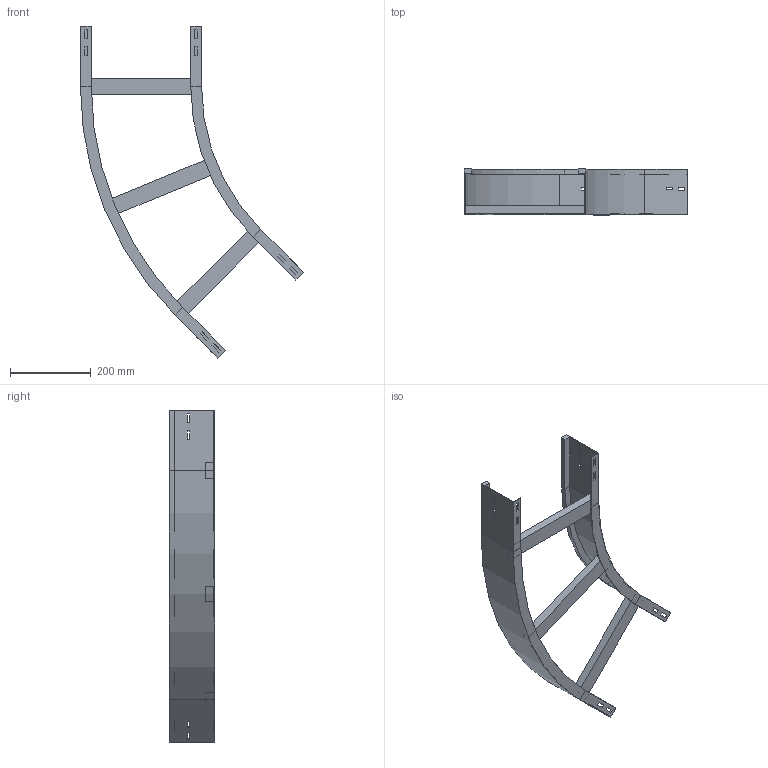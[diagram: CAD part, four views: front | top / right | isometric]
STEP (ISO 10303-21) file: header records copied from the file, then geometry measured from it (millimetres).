
FILE_DESCRIPTION (( 'STEP AP214' ), '1' );
FILE_NAME ('11B5J300.step', '2025-02-21T15:13:28', ( '' ), ( '' ), 'SwSTEP 2.0', 'SolidWorks 2023', '' );
FILE_SCHEMA (( 'AUTOMOTIVE_DESIGN' ));
Length unit declared in the file: millimetre
Products named in the file (4): 11B5J300; A2_LONGH.ESTERNO 45°_H112.5_R500+300; A2_LONGH.INTERNO 45°_H112.5_R500; TRAVERSINO_300
Assembly tree (5 placements, depth 2):
  11B5J300
    A2_LONGH.INTERNO 45°_H112.5_R500
    A2_LONGH.ESTERNO 45°_H112.5_R500+300
    TRAVERSINO_300  x3
Bounding box: 552.51 x 112.5 x 821.75 mm (x, y, z)
Volume: 1471367.2 mm3; surface area: 615240.5 mm2
Topology: 5 solids, 5 shells, 134 faces, 340 edges, 216 vertices
Faces by surface type: plane 126, cylinder 8
Entity records: 3821 total; most frequent: CARTESIAN_POINT 646, ORIENTED_EDGE 632, DIRECTION 592, EDGE_CURVE 316, LINE 300, VECTOR 300, VERTEX_POINT 200, EDGE_LOOP 154
